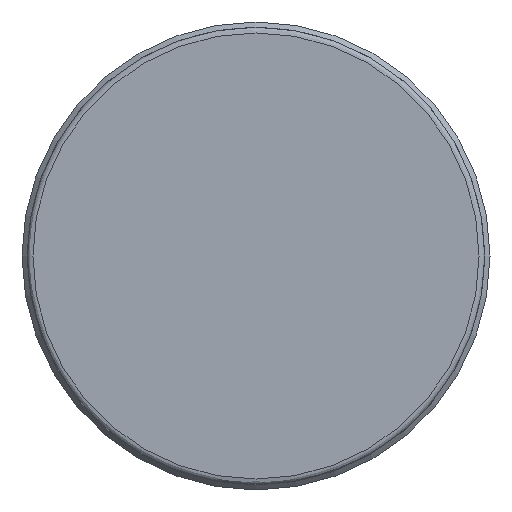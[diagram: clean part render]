
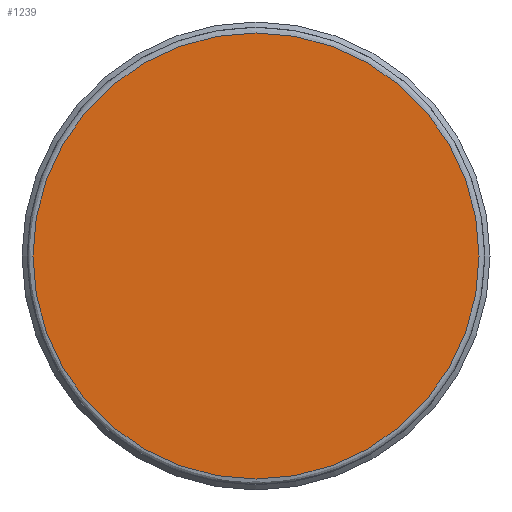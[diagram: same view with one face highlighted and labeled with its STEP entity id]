
A CAD part, left-side view. The second image highlights one B-rep face of the part: STEP entity #1239.
In plain terms, the highlighted planar face has unit normal (-1, 0, 0).
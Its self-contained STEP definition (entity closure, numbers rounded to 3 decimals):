
#1214=CARTESIAN_POINT('',(-528.036,-536.71,48.6));
#1215=DIRECTION('',(-1.0,0.0,0.0));
#1216=DIRECTION('',(0.0,1.0,0.0));
#1217=AXIS2_PLACEMENT_3D('',#1214,#1215,#1216);
#1218=PLANE('',#1217);
#1219=CARTESIAN_POINT('',(-528.036,-448.609,0.));
#1220=VERTEX_POINT('',#1219);
#1221=CARTESIAN_POINT('',(-528.036,-527.609,0.));
#1222=VERTEX_POINT('',#1221);
#1223=CARTESIAN_POINT('',(-528.036,-488.109,0.));
#1224=DIRECTION('',(-1.0,0.0,0.));
#1225=DIRECTION('',(0.0,1.0,0.0));
#1226=AXIS2_PLACEMENT_3D('',#1223,#1224,#1225);
#1227=CIRCLE('',#1226,39.5);
#1228=EDGE_CURVE('',#1220,#1222,#1227,.T.);
#1229=ORIENTED_EDGE('',*,*,#1228,.T.);
#1230=CARTESIAN_POINT('',(-528.036,-488.109,0.));
#1231=DIRECTION('',(-1.0,0.0,0.));
#1232=DIRECTION('',(0.0,1.0,0.0));
#1233=AXIS2_PLACEMENT_3D('',#1230,#1231,#1232);
#1234=CIRCLE('',#1233,39.5);
#1235=EDGE_CURVE('',#1222,#1220,#1234,.T.);
#1236=ORIENTED_EDGE('',*,*,#1235,.T.);
#1237=EDGE_LOOP('',(#1229,#1236));
#1238=FACE_OUTER_BOUND('',#1237,.T.);
#1239=ADVANCED_FACE('',(#1238),#1218,.T.);
